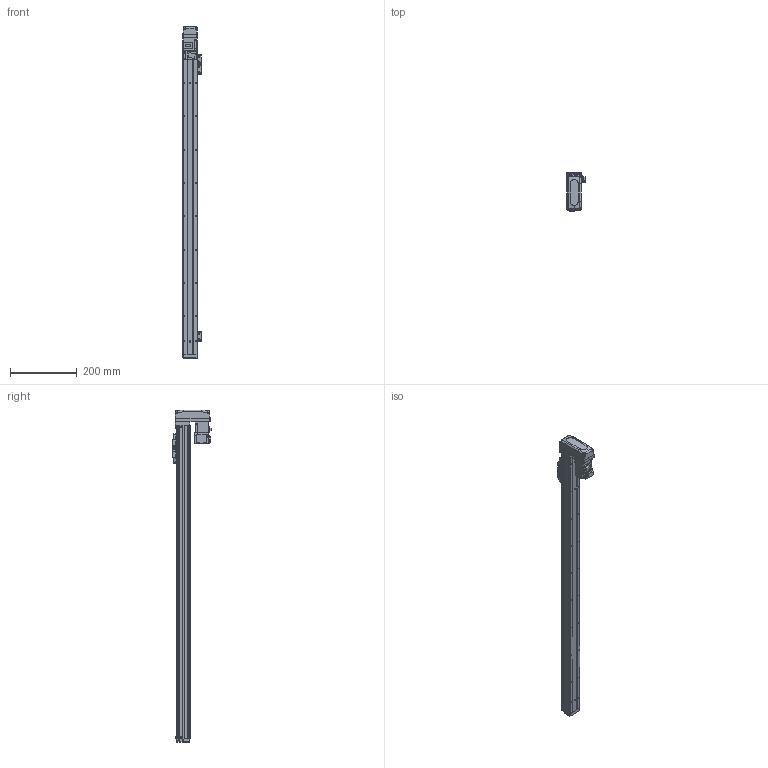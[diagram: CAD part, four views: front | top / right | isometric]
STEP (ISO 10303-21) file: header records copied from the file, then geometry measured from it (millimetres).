
FILE_DESCRIPTION (( 'STEP AP203' ), '1' );
FILE_NAME ('GTH4-800-BM-M05-C4.step', '2023-08-28T00:43:41', ( '微软用户' ), ( '微软中国' ), 'SwSTEP 2.0', 'SolidWorks 2020', '' );
FILE_SCHEMA (( 'CONFIG_CONTROL_DESIGN' ));
Length unit declared in the file: millimetre
Products named in the file (19): BTH-M3X5X6; BTH40-022; BTH50-026; GBT70.1-2000 M3×16; GBT 70.1-M2.5×6; GTH4-800-BM-M05-C4; BTH50-028; BTH40-004; BTH50-023; BTH40-013; BTH40-001-50_BTH40-001-800; BTH50-024; HG-KR13; BTH40-003; GBT 70.1-M3℅6; GBT 70.3-M3℅6; BTH40-006; GBT96.1-2002 3×0.8; BTH40-027-1
Assembly tree (47 placements, depth 2):
  GTH4-800-BM-M05-C4
    BTH40-001-50_BTH40-001-800
    BTH40-003
    BTH40-006
    BTH-M3X5X6  x8
    GBT70.1-2000 M3×16  x4
    BTH50-028  x2
    BTH50-023  x3
    BTH50-024  x3
    GBT 70.1-M3℅6  x6
    GBT96.1-2002 3×0.8  x6
    BTH40-022
    GBT 70.1-M2.5×6  x2
    BTH40-004
    BTH40-013
    HG-KR13
    GBT 70.3-M3℅6  x4
    BTH40-027-1
    BTH50-026
Bounding box: 55.2 x 115.8 x 996 mm (x, y, z)
Volume: 1720267.9 mm3; surface area: 286894.4 mm2
Topology: 49 solids, 49 shells, 1995 faces, 4695 edges, 2890 vertices
Faces by surface type: plane 1052, cylinder 507, cone 270, torus 128, bspline 34, sphere 4
Entity records: 40135 total; most frequent: CARTESIAN_POINT 7666, DIRECTION 6308, ORIENTED_EDGE 6036, EDGE_CURVE 3018, AXIS2_PLACEMENT_3D 2167, VECTOR 1974, LINE 1974, VERTEX_POINT 1877
